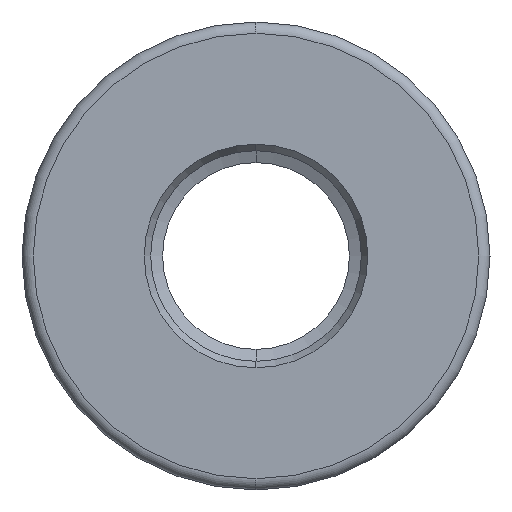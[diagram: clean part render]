
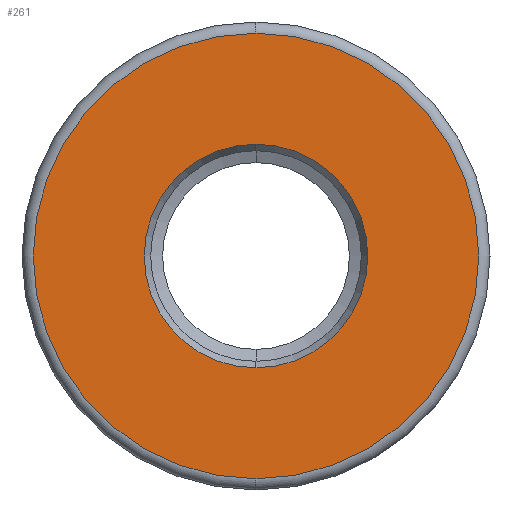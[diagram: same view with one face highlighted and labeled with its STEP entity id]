
A CAD part, left-side view. The second image highlights one B-rep face of the part: STEP entity #261.
In plain terms, the highlighted planar face has unit normal (-1, 0, 0).
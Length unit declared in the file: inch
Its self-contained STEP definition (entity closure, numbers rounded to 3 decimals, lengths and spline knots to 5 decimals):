
#15 = AXIS2_PLACEMENT_3D ( 'NONE', #252, #598, #302 ) ;
#25 = ORIENTED_EDGE ( 'NONE', *, *, #158, .T. ) ;
#38 = VERTEX_POINT ( 'NONE', #342 ) ;
#71 = DIRECTION ( 'NONE',  ( 0., 0., -1. ) ) ;
#73 = AXIS2_PLACEMENT_3D ( 'NONE', #282, #626, #339 ) ;
#101 = CARTESIAN_POINT ( 'NONE',  ( 0., 0., 0.29857 ) ) ;
#120 = CARTESIAN_POINT ( 'NONE',  ( 0., 0., -0.29857 ) ) ;
#130 = DIRECTION ( 'NONE',  ( -1., 0., 0. ) ) ;
#137 = FACE_BOUND ( 'NONE', #199, .T. ) ;
#158 = EDGE_CURVE ( 'NONE', #38, #414, #356, .T. ) ;
#184 = ORIENTED_EDGE ( 'NONE', *, *, #239, .T. ) ;
#199 = EDGE_LOOP ( 'NONE', ( #312, #473 ) ) ;
#202 = DIRECTION ( 'NONE',  ( -1., 0., 0. ) ) ;
#239 = EDGE_CURVE ( 'NONE', #414, #38, #318, .T. ) ;
#251 = CARTESIAN_POINT ( 'NONE',  ( 0., 0., 0. ) ) ;
#252 = CARTESIAN_POINT ( 'NONE',  ( 0., 0., 0. ) ) ;
#261 = ADVANCED_FACE ( 'NONE', ( #565, #137 ), #546, .F. ) ;
#264 = EDGE_LOOP ( 'NONE', ( #184, #25 ) ) ;
#265 = CIRCLE ( 'NONE', #73, 0.29857 ) ;
#267 = VERTEX_POINT ( 'NONE', #120 ) ;
#282 = CARTESIAN_POINT ( 'NONE',  ( 0., 0., 0. ) ) ;
#291 = EDGE_CURVE ( 'NONE', #540, #267, #307, .T. ) ;
#302 = DIRECTION ( 'NONE',  ( 0., 0., 1. ) ) ;
#307 = CIRCLE ( 'NONE', #550, 0.29857 ) ;
#312 = ORIENTED_EDGE ( 'NONE', *, *, #291, .F. ) ;
#318 = CIRCLE ( 'NONE', #15, 0.595 ) ;
#339 = DIRECTION ( 'NONE',  ( 0., 0., 1. ) ) ;
#342 = CARTESIAN_POINT ( 'NONE',  ( 0., 0., -0.595 ) ) ;
#352 = DIRECTION ( 'NONE',  ( 1., 0., 0. ) ) ;
#354 = AXIS2_PLACEMENT_3D ( 'NONE', #251, #352, #71 ) ;
#356 = CIRCLE ( 'NONE', #387, 0.595 ) ;
#387 = AXIS2_PLACEMENT_3D ( 'NONE', #413, #130, #468 ) ;
#413 = CARTESIAN_POINT ( 'NONE',  ( 0., 0., 0. ) ) ;
#414 = VERTEX_POINT ( 'NONE', #489 ) ;
#468 = DIRECTION ( 'NONE',  ( 0., 0., 1. ) ) ;
#473 = ORIENTED_EDGE ( 'NONE', *, *, #589, .F. ) ;
#489 = CARTESIAN_POINT ( 'NONE',  ( 0., 0., 0.595 ) ) ;
#492 = CARTESIAN_POINT ( 'NONE',  ( 0., 0., 0. ) ) ;
#534 = DIRECTION ( 'NONE',  ( 0., 0., 1. ) ) ;
#540 = VERTEX_POINT ( 'NONE', #101 ) ;
#546 = PLANE ( 'NONE',  #354 ) ;
#550 = AXIS2_PLACEMENT_3D ( 'NONE', #492, #202, #534 ) ;
#565 = FACE_OUTER_BOUND ( 'NONE', #264, .T. ) ;
#589 = EDGE_CURVE ( 'NONE', #267, #540, #265, .T. ) ;
#598 = DIRECTION ( 'NONE',  ( -1., 0., 0. ) ) ;
#626 = DIRECTION ( 'NONE',  ( -1., 0., 0. ) ) ;
